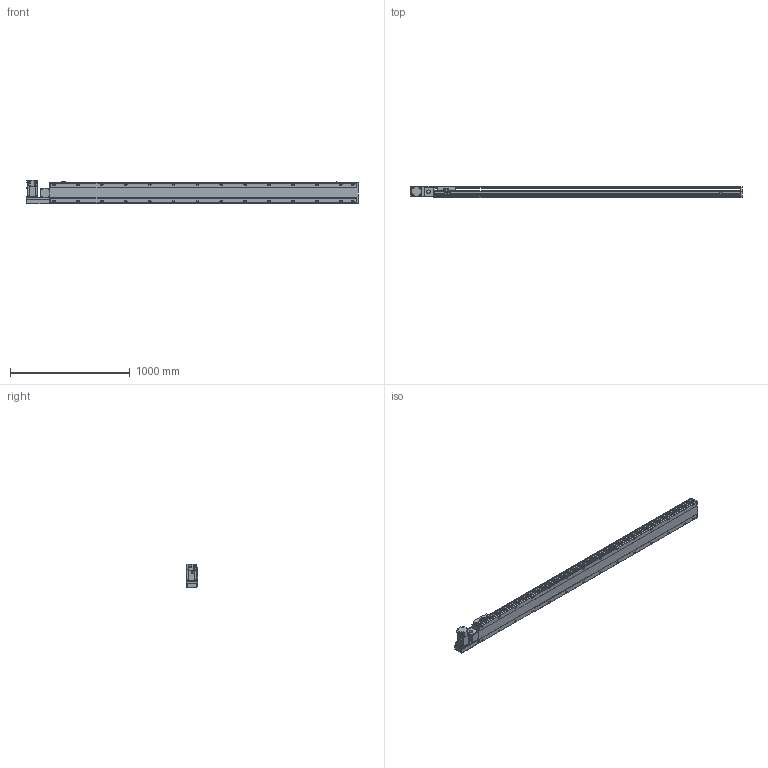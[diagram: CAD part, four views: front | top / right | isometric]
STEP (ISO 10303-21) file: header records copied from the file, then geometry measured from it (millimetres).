
FILE_DESCRIPTION( ( 'STEP AP214' ), '1' );
FILE_NAME( 'x:/temp/worker_3/temp/exporttempdir_5796_121_RXkhb/format_0/PBS170-P40-S2300-L-T75-C1-N(0).stp', '2022-06-07T06:58:33', ( 'License CC BY-ND 4.0' ), ( 'CADENAS' ), ' ', 'PARTsolutions', ' ' );
FILE_SCHEMA( ( 'AUTOMOTIVE_DESIGN { 1 0 10303 214 1 1 1 1 }' ) );
Length unit declared in the file: millimetre
Products named in the file (7): PBS170-P40-S2300-L-T75-C1-N(0); _PBS170-S2300()_body; _PBS170T-L_motors; _T75-p1; _PBS170_sliser; _PBS170_plant; _PBS170_sensor
Assembly tree (8 placements, depth 2):
  PBS170-P40-S2300-L-T75-C1-N(0)
    _PBS170-S2300()_body
    _PBS170T-L_motors
    _T75-p1
    _PBS170_sliser
    _PBS170_plant
    _PBS170_sensor  x3
Bounding box: 2778 x 97 x 197.3 mm (x, y, z)
Volume: 20252233.2 mm3; surface area: 2558160.1 mm2
Topology: 8 solids, 8 shells, 1178 faces, 3115 edges, 2030 vertices
Faces by surface type: plane 723, cylinder 387, cone 58, sphere 8, torus 2
Full cylindrical faces by diameter (mm): 3.242 x4, 4 x2, 4.4 x4, 4.5 x6, 4.917 x4, 6 x9, 6.647 x36, 7 x2, 7.5 x4, 8 x8, 8.5 x28, 10 x4, 10.5 x28, 11 x2, 30 x2, 40 x1, 70 x1
Entity records: 43592 total; most frequent: CARTESIAN_POINT 7229, DIRECTION 5720, ORIENTED_EDGE 5388, EDGE_CURVE 2694, AXIS2_PLACEMENT_3D 2017, VERTEX_POINT 1874, LINE 1686, VECTOR 1686
